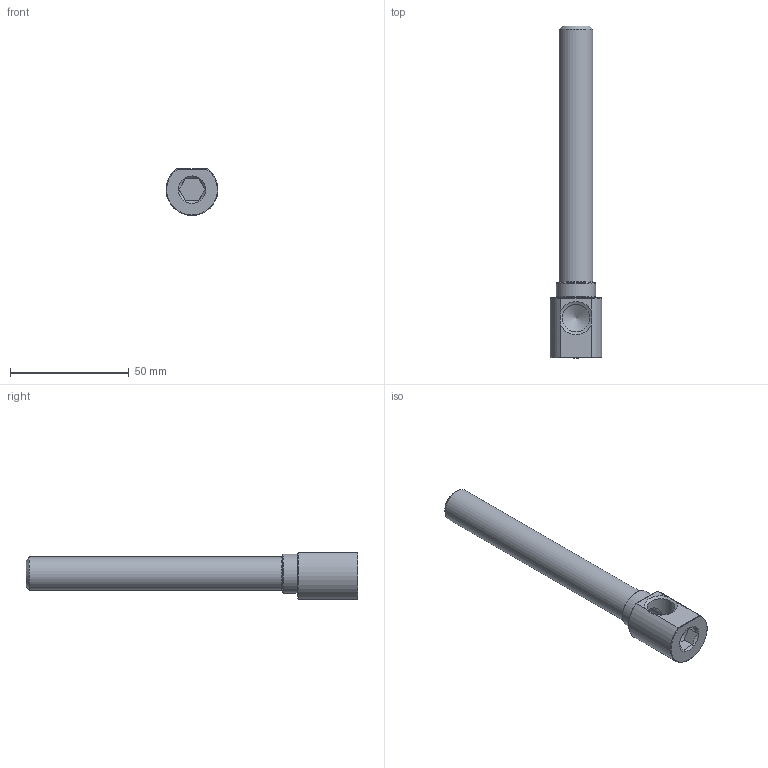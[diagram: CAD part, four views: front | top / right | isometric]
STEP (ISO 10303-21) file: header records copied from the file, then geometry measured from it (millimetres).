
FILE_DESCRIPTION(/* description */ (''),/* implementation_level */ '2;1');
FILE_NAME(/* name */ 'C:/Users/drich/Desktop/EKL14 X 5.5 v2.step',/* time_stamp */ '2019-11-18T14:33:00-06:00',/* author */ (''),/* organization */ (''),/* preprocessor_version */ 'ST-DEVELOPER v18',/* originating_system */ 'Autodesk Translation Framework v8.12.0.6',/* authorisation */ '');
FILE_SCHEMA (('AUTOMOTIVE_DESIGN { 1 0 10303 214 3 1 1 }'));
Length unit declared in the file: inch
Products named in the file (2): EKL14 X 5.5; EKL14 X 5-1/2
Assembly tree (1 placements, depth 2):
  EKL14 X 5.5
    EKL14 X 5-1/2
Bounding box: 21.77 x 139.7 x 19.77 mm (x, y, z)
Volume: 17890.9 mm3; surface area: 11429.8 mm2
Topology: 1 solids, 1 shells, 32 faces, 78 edges, 51 vertices
Faces by surface type: plane 16, cone 10, cylinder 6
Full cylindrical faces by diameter (mm): 8.712 x1, 11.176 x1, 11.668 x1, 14.143 x1, 16.51 x1
Entity records: 1047 total; most frequent: CARTESIAN_POINT 242, DIRECTION 159, ORIENTED_EDGE 154, EDGE_CURVE 77, AXIS2_PLACEMENT_3D 63, VERTEX_POINT 51, EDGE_LOOP 38, LINE 33
